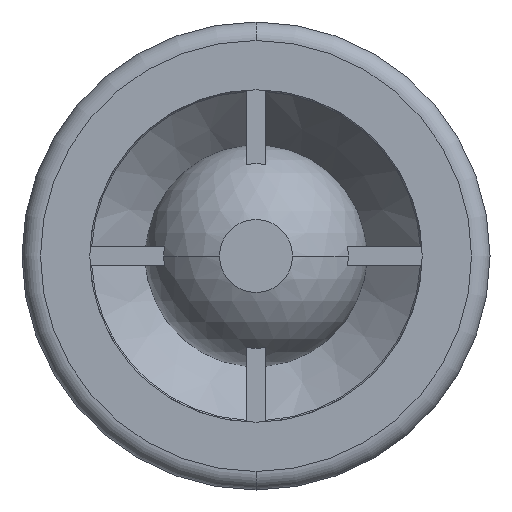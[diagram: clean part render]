
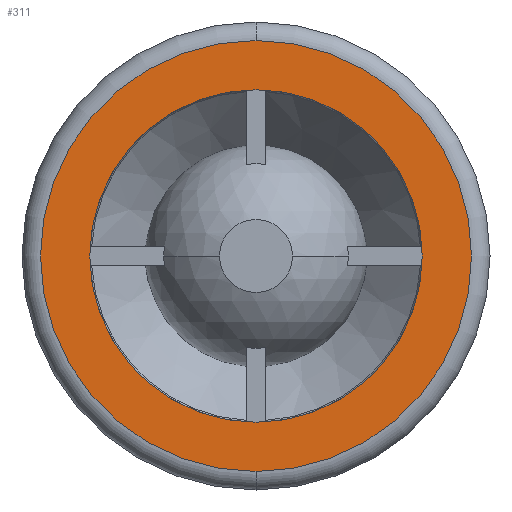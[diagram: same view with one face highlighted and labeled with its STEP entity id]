
A CAD part, front view. The second image highlights one B-rep face of the part: STEP entity #311.
In plain terms, the highlighted planar face has unit normal (0, -1, 0).
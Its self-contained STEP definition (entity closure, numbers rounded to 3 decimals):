
#35 = VERTEX_POINT ( 'NONE', #890 ) ;
#52 = EDGE_CURVE ( 'NONE', #2834, #35, #931, .T. ) ;
#285 = EDGE_CURVE ( 'NONE', #35, #2834, #1416, .T. ) ;
#299 = ORIENTED_EDGE ( 'NONE', *, *, #285, .T. ) ;
#300 = EDGE_LOOP ( 'NONE', ( #299, #334 ) ) ;
#301 = ORIENTED_EDGE ( 'NONE', *, *, #645, .F. ) ;
#311 = ADVANCED_FACE ( 'NONE', ( #1485, #1481 ), #1480, .F. ) ;
#312 = ORIENTED_EDGE ( 'NONE', *, *, #523, .F. ) ;
#334 = ORIENTED_EDGE ( 'NONE', *, *, #52, .T. ) ;
#336 = EDGE_LOOP ( 'NONE', ( #301, #312 ) ) ;
#521 = VERTEX_POINT ( 'NONE', #1759 ) ;
#523 = EDGE_CURVE ( 'NONE', #521, #524, #1758, .T. ) ;
#524 = VERTEX_POINT ( 'NONE', #1753 ) ;
#645 = EDGE_CURVE ( 'NONE', #524, #521, #1997, .T. ) ;
#890 = CARTESIAN_POINT ( 'NONE',  ( 0., 0., 17.5 ) ) ;
#927 = DIRECTION ( 'NONE',  ( 0., 0., 1. ) ) ;
#928 = DIRECTION ( 'NONE',  ( 0., -1., 0. ) ) ;
#929 = CARTESIAN_POINT ( 'NONE',  ( 0., 0., 0. ) ) ;
#930 = AXIS2_PLACEMENT_3D ( 'NONE', #929, #928, #927 ) ;
#931 = CIRCLE ( 'NONE', #930, 17.5 ) ;
#1412 = DIRECTION ( 'NONE',  ( 0., 0., 1. ) ) ;
#1413 = DIRECTION ( 'NONE',  ( 0., -1., 0. ) ) ;
#1414 = CARTESIAN_POINT ( 'NONE',  ( 0., 0., 0. ) ) ;
#1415 = AXIS2_PLACEMENT_3D ( 'NONE', #1414, #1413, #1412 ) ;
#1416 = CIRCLE ( 'NONE', #1415, 17.5 ) ;
#1475 = DIRECTION ( 'NONE',  ( 0., 0., 1. ) ) ;
#1476 = DIRECTION ( 'NONE',  ( 0., 1., 0. ) ) ;
#1477 = CARTESIAN_POINT ( 'NONE',  ( -13.5, 0., 0. ) ) ;
#1479 = AXIS2_PLACEMENT_3D ( 'NONE', #1477, #1476, #1475 ) ;
#1480 = PLANE ( 'NONE',  #1479 ) ;
#1481 = FACE_BOUND ( 'NONE', #336, .T. ) ;
#1485 = FACE_OUTER_BOUND ( 'NONE', #300, .T. ) ;
#1753 = CARTESIAN_POINT ( 'NONE',  ( 0., 0., -13.5 ) ) ;
#1754 = DIRECTION ( 'NONE',  ( 0., 0., -1. ) ) ;
#1755 = DIRECTION ( 'NONE',  ( 0., -1., 0. ) ) ;
#1756 = CARTESIAN_POINT ( 'NONE',  ( 0., 0., 0. ) ) ;
#1757 = AXIS2_PLACEMENT_3D ( 'NONE', #1756, #1755, #1754 ) ;
#1758 = CIRCLE ( 'NONE', #1757, 13.5 ) ;
#1759 = CARTESIAN_POINT ( 'NONE',  ( 0., 0., 13.5 ) ) ;
#1993 = DIRECTION ( 'NONE',  ( 0., 0., -1. ) ) ;
#1994 = DIRECTION ( 'NONE',  ( 0., -1., 0. ) ) ;
#1995 = CARTESIAN_POINT ( 'NONE',  ( 0., 0., 0. ) ) ;
#1996 = AXIS2_PLACEMENT_3D ( 'NONE', #1995, #1994, #1993 ) ;
#1997 = CIRCLE ( 'NONE', #1996, 13.5 ) ;
#2474 = CARTESIAN_POINT ( 'NONE',  ( 0., 0., -17.5 ) ) ;
#2834 = VERTEX_POINT ( 'NONE', #2474 ) ;
